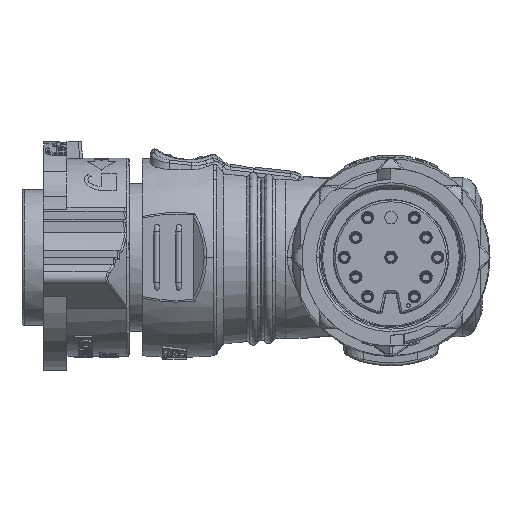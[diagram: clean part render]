
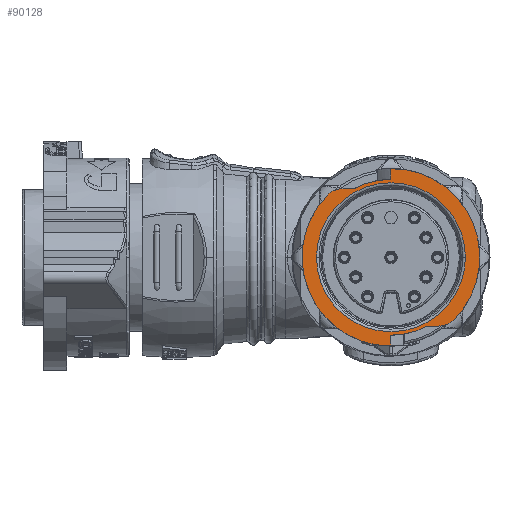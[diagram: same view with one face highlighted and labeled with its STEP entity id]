
A CAD part, left-side view. The second image highlights one B-rep face of the part: STEP entity #90128.
In plain terms, the highlighted planar face has unit normal (-1, 0, 0).
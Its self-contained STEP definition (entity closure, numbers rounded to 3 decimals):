
#29237=CARTESIAN_POINT('',(0.,0.,0.));
#29238=DIRECTION('',(-1.,0.,0.));
#29239=DIRECTION('',(0.,0.,-1.));
#29240=AXIS2_PLACEMENT_3D('',#29237,#29238,#29239);
#29334=CARTESIAN_POINT('',(0.,0.,0.));
#29335=DIRECTION('',(-1.,0.,0.));
#29336=DIRECTION('',(0.,0.714,0.7));
#29337=AXIS2_PLACEMENT_3D('',#29334,#29335,#29336);
#29380=CARTESIAN_POINT('',(0.,6.536,6.403));
#29381=DIRECTION('',(-1.,0.,0.));
#29382=DIRECTION('',(0.,0.,1.));
#29383=AXIS2_PLACEMENT_3D('',#29380,#29381,#29382);
#29385=DIRECTION('',(0.,1.,0.));
#29386=VECTOR('',#29385,1.536);
#29387=CARTESIAN_POINT('',(0.,5.,9.403));
#29388=LINE('',#29387,#29386);
#29389=DIRECTION('',(0.,0.,1.));
#29390=VECTOR('',#29389,1.5);
#29391=CARTESIAN_POINT('',(0.,0.,10.65));
#29392=LINE('',#29391,#29390);
#29393=CARTESIAN_POINT('',(0.,-6.536,-6.403));
#29394=DIRECTION('',(-1.,0.,0.));
#29395=DIRECTION('',(0.,0.,-1.));
#29396=AXIS2_PLACEMENT_3D('',#29393,#29394,#29395);
#29398=DIRECTION('',(0.,-1.,0.));
#29399=VECTOR('',#29398,1.536);
#29400=CARTESIAN_POINT('',(0.,-5.,-9.403));
#29401=LINE('',#29400,#29399);
#29402=DIRECTION('',(0.,0.,-1.));
#29403=VECTOR('',#29402,1.5);
#29404=CARTESIAN_POINT('',(0.,0.,-10.65));
#29405=LINE('',#29404,#29403);
#29406=CARTESIAN_POINT('',(0.,0.,0.));
#29407=DIRECTION('',(1.,0.,0.));
#29408=DIRECTION('',(0.,1.,0.));
#29409=AXIS2_PLACEMENT_3D('',#29406,#29407,#29408);
#29411=CARTESIAN_POINT('',(0.,0.,0.));
#29412=DIRECTION('',(1.,0.,0.));
#29413=DIRECTION('',(0.,-1.,0.));
#29414=AXIS2_PLACEMENT_3D('',#29411,#29412,#29413);
#29466=CARTESIAN_POINT('',(0.,0.,0.));
#29467=DIRECTION('',(1.,0.,0.));
#29468=DIRECTION('',(0.,0.469,0.883));
#29469=AXIS2_PLACEMENT_3D('',#29466,#29467,#29468);
#29571=CARTESIAN_POINT('',(0.,0.,0.));
#29572=DIRECTION('',(-1.,0.,0.));
#29573=DIRECTION('',(0.,-0.714,-0.7));
#29574=AXIS2_PLACEMENT_3D('',#29571,#29572,#29573);
#55011=CARTESIAN_POINT('',(0.,0.,-10.65));
#55012=CARTESIAN_POINT('',(0.,0.,-12.15));
#55013=VERTEX_POINT('',#55011);
#55014=VERTEX_POINT('',#55012);
#55015=CARTESIAN_POINT('',(0.,0.,10.65));
#55016=CARTESIAN_POINT('',(0.,0.,12.15));
#55017=VERTEX_POINT('',#55015);
#55018=VERTEX_POINT('',#55016);
#55019=CARTESIAN_POINT('',(0.,-6.536,-9.403));
#55020=CARTESIAN_POINT('',(0.,-8.679,-8.503));
#55021=VERTEX_POINT('',#55019);
#55022=VERTEX_POINT('',#55020);
#55031=CARTESIAN_POINT('',(0.,-5.,-9.403));
#55032=VERTEX_POINT('',#55031);
#55043=CARTESIAN_POINT('',(0.,6.536,9.403));
#55044=CARTESIAN_POINT('',(0.,8.679,8.503));
#55045=VERTEX_POINT('',#55043);
#55046=VERTEX_POINT('',#55044);
#55053=CARTESIAN_POINT('',(0.,5.,9.403));
#55054=VERTEX_POINT('',#55053);
#55705=CARTESIAN_POINT('',(0.,10.183,0.));
#55706=CARTESIAN_POINT('',(0.,-10.183,0.));
#55707=VERTEX_POINT('',#55705);
#55708=VERTEX_POINT('',#55706);
#90098=CARTESIAN_POINT('',(0.,0.,0.));
#90099=DIRECTION('',(1.,0.,0.));
#90100=DIRECTION('',(0.,1.,0.));
#90101=AXIS2_PLACEMENT_3D('',#90098,#90099,#90100);
#90102=PLANE('',#90101);
#90103=ORIENTED_EDGE('',*,*,#90033,.F.);
#90105=ORIENTED_EDGE('',*,*,#90104,.F.);
#90107=ORIENTED_EDGE('',*,*,#90106,.F.);
#90109=ORIENTED_EDGE('',*,*,#90108,.T.);
#90111=ORIENTED_EDGE('',*,*,#90110,.T.);
#90113=ORIENTED_EDGE('',*,*,#90112,.F.);
#90115=ORIENTED_EDGE('',*,*,#90114,.F.);
#90117=ORIENTED_EDGE('',*,*,#90116,.F.);
#90118=ORIENTED_EDGE('',*,*,#89956,.F.);
#90119=ORIENTED_EDGE('',*,*,#90092,.T.);
#90120=EDGE_LOOP('',(#90103,#90105,#90107,#90109,#90111,#90113,#90115,#90117,
#90118,#90119));
#90121=FACE_OUTER_BOUND('',#90120,.F.);
#90123=ORIENTED_EDGE('',*,*,#90122,.F.);
#90125=ORIENTED_EDGE('',*,*,#90124,.F.);
#90126=EDGE_LOOP('',(#90123,#90125));
#90127=FACE_BOUND('',#90126,.F.);
#90128=ADVANCED_FACE('',(#90121,#90127),#90102,.F.);
#29241=CIRCLE('',#29240,10.65);
#29338=CIRCLE('',#29337,12.15);
#29384=CIRCLE('',#29383,3.);
#29397=CIRCLE('',#29396,3.);
#29410=CIRCLE('',#29409,10.183);
#29415=CIRCLE('',#29414,10.183);
#29470=CIRCLE('',#29469,10.65);
#29575=CIRCLE('',#29574,12.15);
#89956=EDGE_CURVE('',#55013,#55032,#29241,.T.);
#90033=EDGE_CURVE('',#55046,#55014,#29338,.T.);
#90092=EDGE_CURVE('',#55013,#55014,#29405,.T.);
#90104=EDGE_CURVE('',#55045,#55046,#29384,.T.);
#90106=EDGE_CURVE('',#55054,#55045,#29388,.T.);
#90108=EDGE_CURVE('',#55054,#55017,#29470,.T.);
#90110=EDGE_CURVE('',#55017,#55018,#29392,.T.);
#90112=EDGE_CURVE('',#55022,#55018,#29575,.T.);
#90114=EDGE_CURVE('',#55021,#55022,#29397,.T.);
#90116=EDGE_CURVE('',#55032,#55021,#29401,.T.);
#90122=EDGE_CURVE('',#55707,#55708,#29410,.T.);
#90124=EDGE_CURVE('',#55708,#55707,#29415,.T.);
